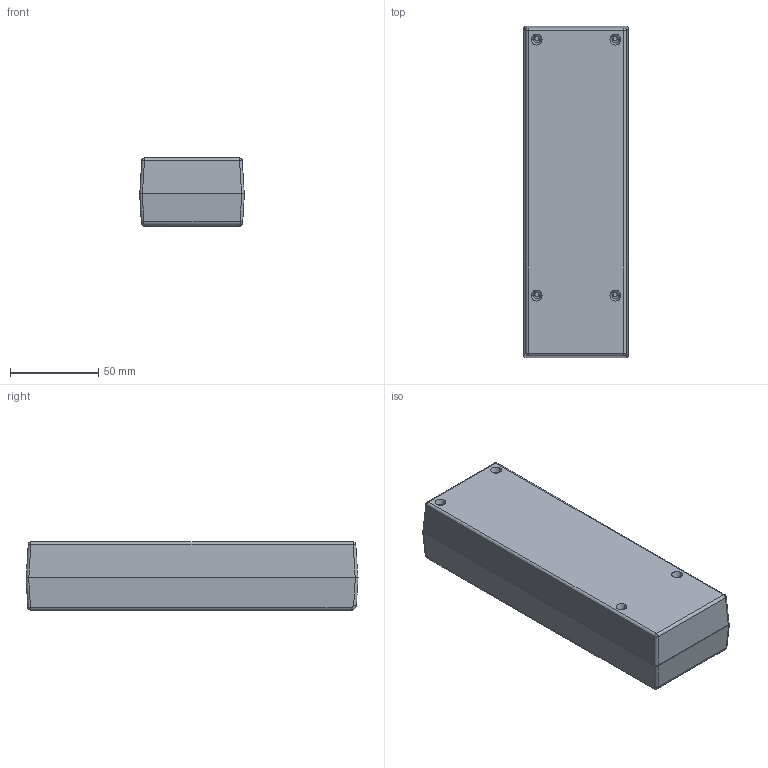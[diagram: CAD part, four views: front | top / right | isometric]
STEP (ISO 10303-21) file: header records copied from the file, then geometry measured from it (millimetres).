
FILE_DESCRIPTION (( 'STEP AP203' ), '1' );
FILE_NAME ('Z-32B.STEP', '2024-08-30T11:28:23', ( '' ), ( '' ), 'SwSTEP 2.0', 'SolidWorks 2013', '' );
FILE_SCHEMA (( 'CONFIG_CONTROL_DESIGN' ));
Length unit declared in the file: millimetre
Products named in the file (4): KMz 32B dol; KMz 32B kpl; KMz 32B gora; Z-32B
Assembly tree (3 placements, depth 3):
  Z-32B
    KMz 32B kpl
      KMz 32B dol
      KMz 32B gora
Bounding box: 59.4 x 188.1 x 38.65 mm (x, y, z)
Volume: 96455.4 mm3; surface area: 83706.7 mm2
Topology: 2 solids, 2 shells, 129 faces, 303 edges, 188 vertices
Faces by surface type: cylinder 57, plane 56, cone 8, bspline 8
Entity records: 4255 total; most frequent: CARTESIAN_POINT 887, DIRECTION 641, ORIENTED_EDGE 594, EDGE_CURVE 297, AXIS2_PLACEMENT_3D 238, VERTEX_POINT 188, LINE 165, VECTOR 165
